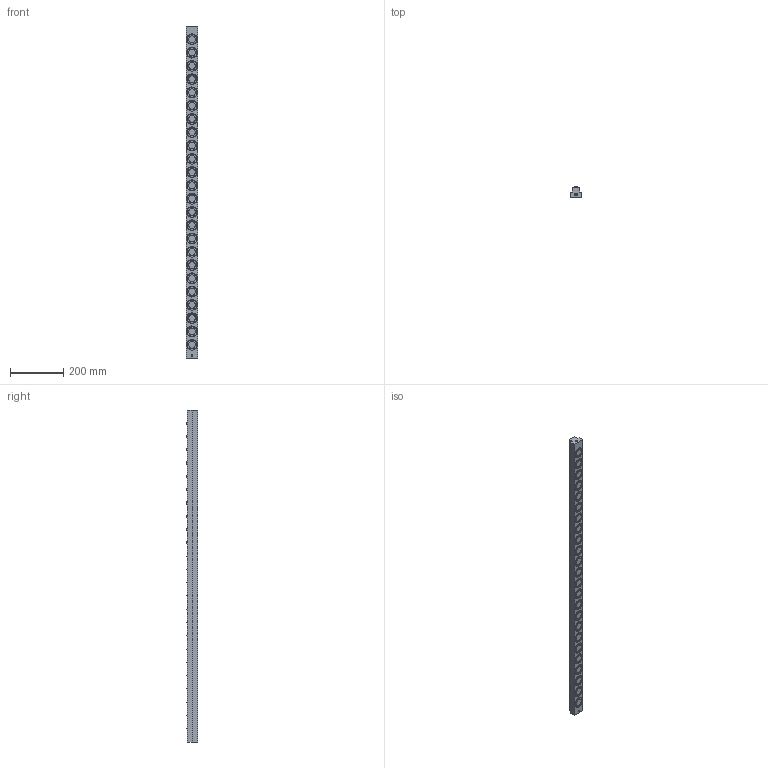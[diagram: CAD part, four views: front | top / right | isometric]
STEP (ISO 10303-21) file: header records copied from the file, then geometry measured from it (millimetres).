
FILE_DESCRIPTION (( 'STEP AP203' ), '1' );
FILE_NAME ('PVL50T-24.STEP', '2016-02-18T05:05:59', ( '' ), ( '' ), 'SwSTEP 2.0', 'SolidWorks 2013', '' );
FILE_SCHEMA (( 'CONFIG_CONTROL_DESIGN' ));
Length unit declared in the file: millimetre
Products named in the file (1): PVL50T-24
Bounding box: 45 x 42 x 1250 mm (x, y, z)
Volume: 1688442.9 mm3; surface area: 248405.5 mm2
Topology: 1 solids, 1 shells, 766 faces, 1804 edges, 1209 vertices
Faces by surface type: cylinder 486, plane 228, sphere 48, cone 4
Entity records: 22711 total; most frequent: DIRECTION 4456, CARTESIAN_POINT 3778, ORIENTED_EDGE 3604, AXIS2_PLACEMENT_3D 1887, EDGE_CURVE 1802, VERTEX_POINT 1209, CIRCLE 1120, EDGE_LOOP 939
